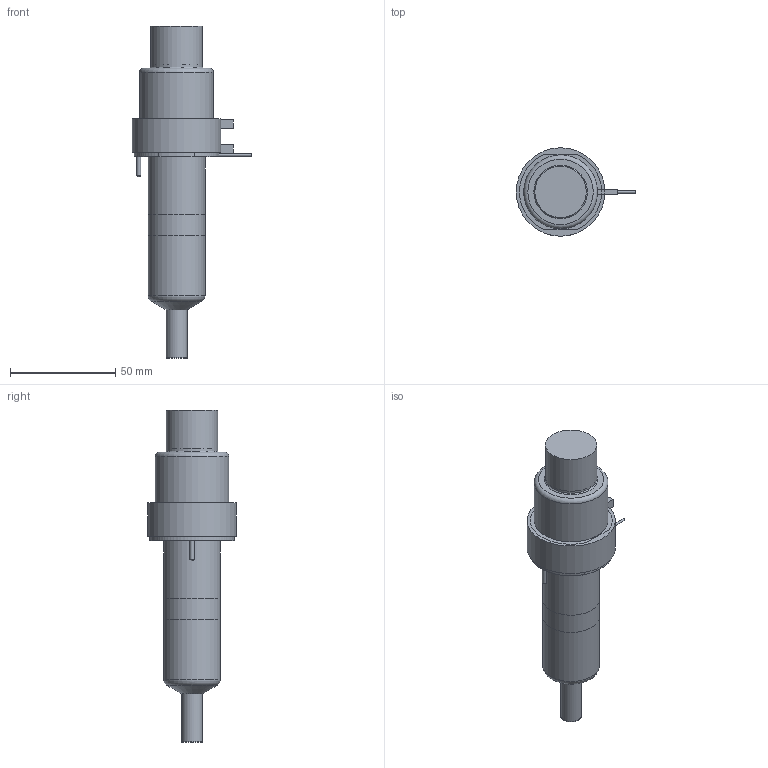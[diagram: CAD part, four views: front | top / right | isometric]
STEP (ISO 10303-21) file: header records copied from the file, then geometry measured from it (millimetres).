
FILE_DESCRIPTION(/* description */ (''),/* implementation_level */ '2;1');
FILE_NAME(/* name */ 'SXYCN13075P4F_250C_a',/* time_stamp */ '2016-03-03T16:49:46+13:00',/* author */ (''),/* organization */ (''),/* preprocessor_version */ 'ST-DEVELOPER v9',/* originating_system */ 'UGS - NX 4.0',/* authorisation */ '');
FILE_SCHEMA (('CONFIG_CONTROL_DESIGN'));
Length unit declared in the file: millimetre
Products named in the file (1): matt9EABfng5
Bounding box: 56.65 x 42 x 157.53 mm (x, y, z)
Volume: 172034.6 mm3; surface area: 32050.3 mm2
Topology: 7 solids, 7 shells, 91 faces, 175 edges, 112 vertices
Faces by surface type: plane 45, cylinder 29, torus 8, cone 7, bspline 1, sphere 1
Full cylindrical faces by diameter (mm): 1 x3, 1.8 x1, 2 x2, 4 x1, 6 x1, 9.61 x1, 9.995 x2, 12.6 x1, 22.2 x1, 24 x1, 24.4 x1, 27 x2, 31.8 x1, 35 x1, 40 x1, 42 x1
Entity records: 2230 total; most frequent: CARTESIAN_POINT 435, DIRECTION 378, ORIENTED_EDGE 266, AXIS2_PLACEMENT_3D 164, EDGE_LOOP 140, EDGE_CURVE 133, VERTEX_POINT 106, ADVANCED_FACE 91
